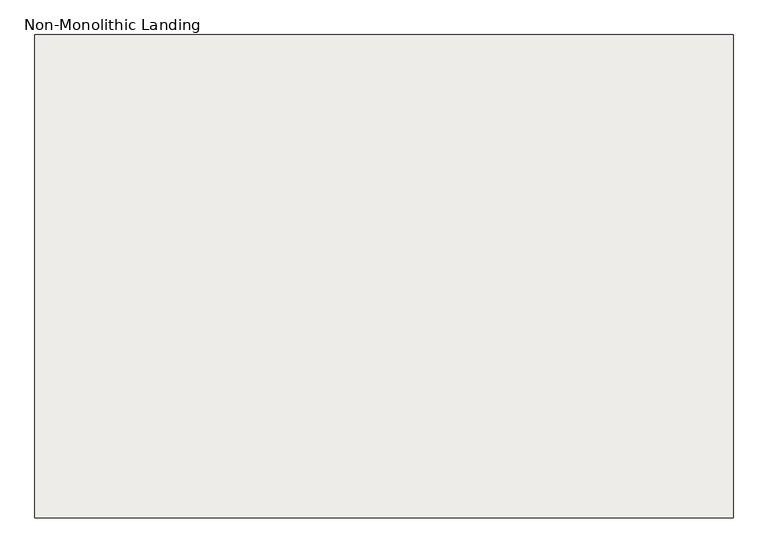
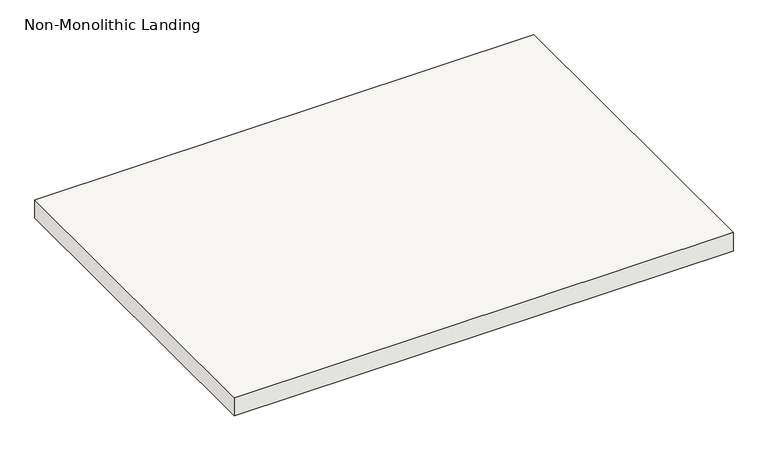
"""IFC4 building model written with IfcOpenShell, lengths in millimetres: slab geometry, Non-Monolithic Landing."""

from ifc_helpers import new_model, si_unit, frame, origin, place, context, project, spatial, polyline, outline, extrude, source, transform, mapped, element, save


def non_monolithic_landing_67251964(model_context):
    return source(origin(), model_context, "Body", "SweptSolid", [
        extrude(outline(polyline([(16212.6035021, 29614.9361774), (17533.4035021, 29614.9361774), (17533.4035021, 28700.5361774), (16212.6035021, 28700.5361774), (16212.6035021, 29614.9361774)])), frame((0.0, 0.0, 2126.3428571), z_axis=(0.0, 0.0, 1.0), x_axis=(1.0, 0.0, 0.0)), (0.0, 0.0, 1.0), 50.8),
    ])


if __name__ == "__main__":
    model = new_model("IFC4")
    model_context = context("Model", 3, world=origin())
    ifc_project = project(units=[si_unit("LENGTHUNIT", "METRE", prefix="MILLI")], contexts=[model_context])
    site = spatial("IfcSite", under=ifc_project)
    building = spatial("IfcBuilding", under=site)
    placement = place(None, origin())
    non_monolithic_landing_shape = non_monolithic_landing_67251964(model_context)
    element("IfcSlab", 1, ObjectType="Non-Monolithic Landing", at=placement, inside=building, context=model_context, shape_type="MappedRepresentation", body=[
        mapped(non_monolithic_landing_shape, transform((0.0, 0.0, 0.0), x_axis=(1.0, 0.0, 0.0), y_axis=(0.0, 1.0, 0.0), z_axis=(0.0, 0.0, 1.0))),
    ])
    save(model, "model.ifc")
